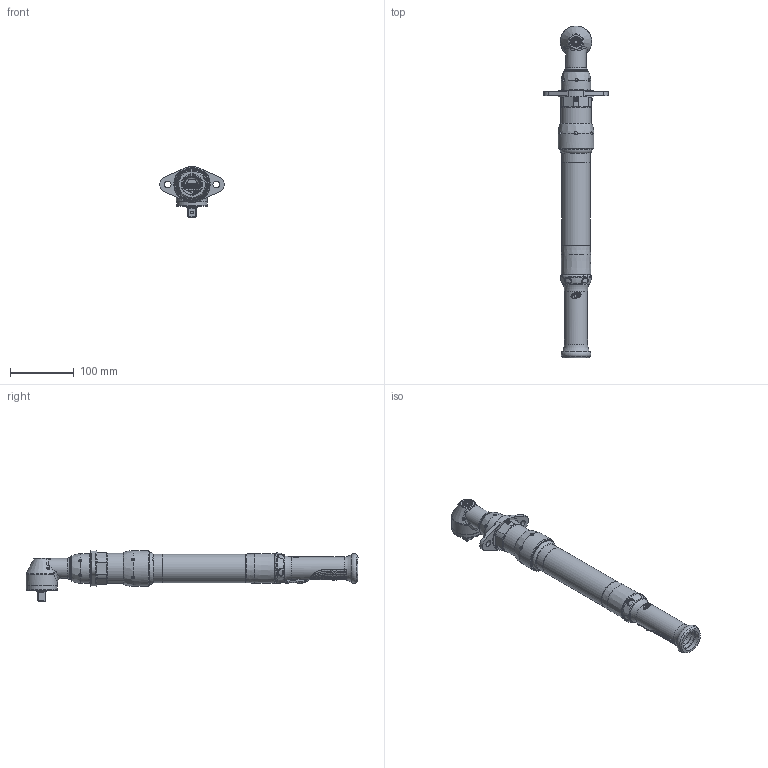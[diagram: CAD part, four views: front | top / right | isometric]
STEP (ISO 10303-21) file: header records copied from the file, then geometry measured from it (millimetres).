
FILE_DESCRIPTION(/* description */ (''),/* implementation_level */ '2;1');
FILE_NAME(/* name */ 'QE8AT150FA6S08',/* time_stamp */ '2014-02-07T08:27:56-05:00',/* author */ (''),/* organization */ (''),/* preprocessor_version */ 'ST-DEVELOPER v9',/* originating_system */ 'UGS - NX 4.0',/* authorisation */ '');
FILE_SCHEMA (('AUTOMOTIVE_DESIGN { 1 0 10303 214 1 1 1 1 }'));
Products named in the file (1): ckok9F5Bmnub
Bounding box: 101.6 x 520.28 x 79.53 mm (x, y, z)
Volume: 259651.4 mm3; surface area: 215032.5 mm2
Topology: 84 solids, 84 shells, 4158 faces, 11374 edges, 7374 vertices
Faces by surface type: plane 1395, cylinder 1163, torus 561, extrusion 374, cone 327, revolution 174, bspline 142, sphere 22
Full cylindrical faces by diameter (mm): 1.448 x2, 1.575 x2, 1.984 x19, 2 x18, 2.287 x2, 2.54 x1, 2.778 x1, 3.048 x1, 3.137 x1, 3.15 x2, 3.175 x1, 3.969 x2, 4.039 x1, 4.064 x1, 4.216 x2, 4.369 x1, 4.75 x2, 4.826 x1, 4.978 x12, 5.563 x1, 6.731 x1, 6.858 x1, 10.414 x3, 11.201 x1, 11.303 x1, 12.662 x1, 12.7 x1, 12.878 x7, 13.513 x2, 13.56 x1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
Entity records: 262018 total; most frequent: CARTESIAN_POINT 163720, ORIENTED_EDGE 21560, DIRECTION 17126, EDGE_CURVE 10780, VERTEX_POINT 7236, AXIS2_PLACEMENT_3D 6865, B_SPLINE_CURVE_WITH_KNOTS 5067, EDGE_LOOP 4714
